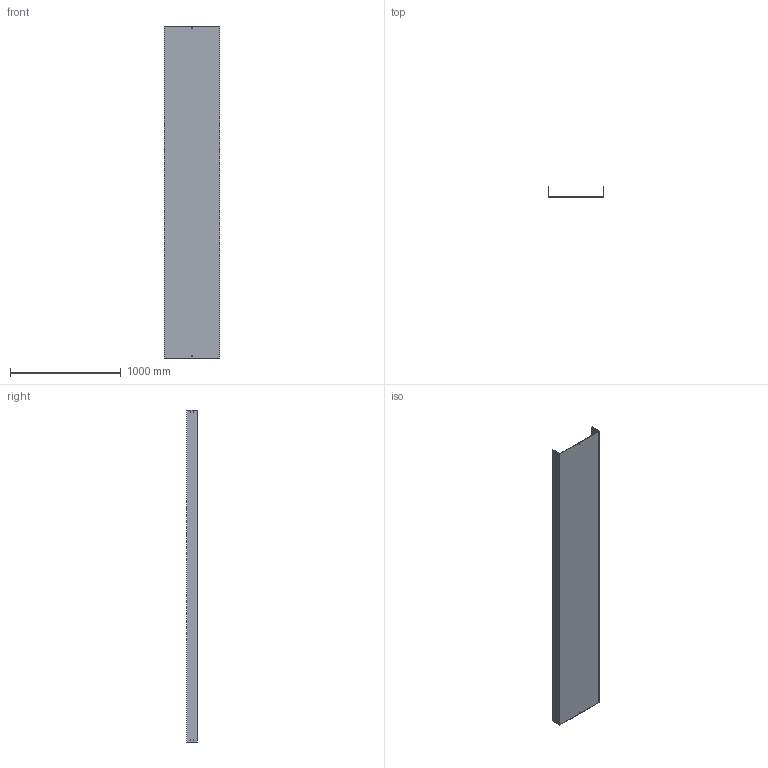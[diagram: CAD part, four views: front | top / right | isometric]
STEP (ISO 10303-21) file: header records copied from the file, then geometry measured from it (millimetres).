
FILE_DESCRIPTION (( 'STEP AP214' ), '1' );
FILE_NAME ('03B3I500.step', '2025-02-21T10:27:36', ( '' ), ( '' ), 'SwSTEP 2.0', 'SolidWorks 2023', '' );
FILE_SCHEMA (( 'AUTOMOTIVE_DESIGN' ));
Length unit declared in the file: millimetre
Products named in the file (1): 03B3I500
Bounding box: 504 x 92.5 x 3000 mm (x, y, z)
Volume: 7158630.5 mm3; surface area: 4117589 mm2
Topology: 1 solids, 1 shells, 50 faces, 144 edges, 96 vertices
Faces by surface type: plane 50
Entity records: 1671 total; most frequent: CARTESIAN_POINT 291, ORIENTED_EDGE 288, DIRECTION 246, EDGE_CURVE 144, VECTOR 144, LINE 144, VERTEX_POINT 96, EDGE_LOOP 70
